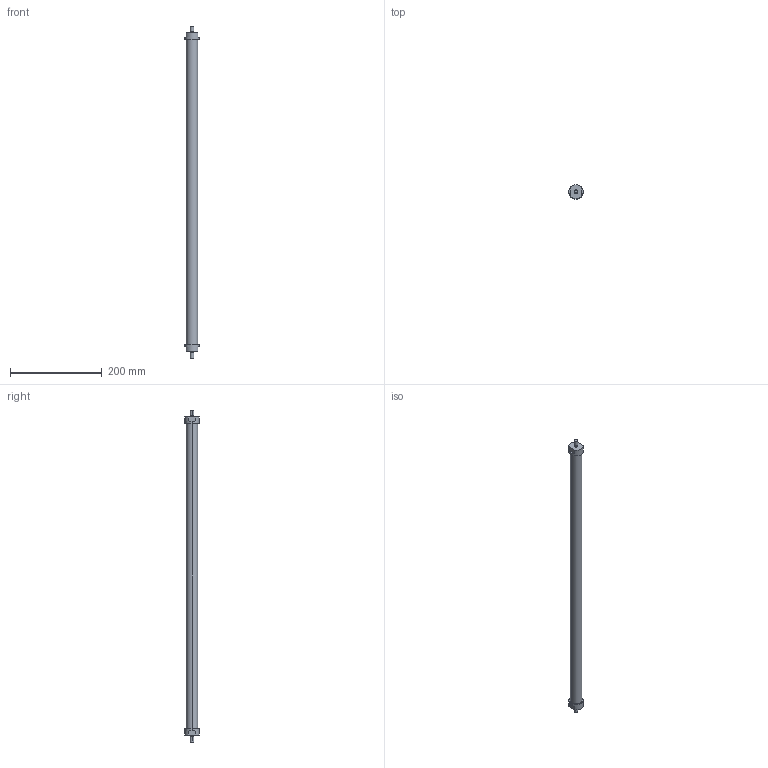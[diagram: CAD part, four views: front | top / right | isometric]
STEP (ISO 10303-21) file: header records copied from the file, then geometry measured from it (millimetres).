
FILE_DESCRIPTION(('STEP AP214'),'1');
FILE_NAME('ETT-R050N704.stp','2015-02-02T15:43:50',(' '),(' '),'Spatial InterOp 3D',' ',' ');
FILE_SCHEMA(('automotive_design'));
Length unit declared in the file: metre
Products named in the file (3): 1; 2; 3
Bounding box: 31 x 31 x 724 mm (x, y, z)
Volume: 348946.3 mm3; surface area: 58377.8 mm2
Topology: 1 solids, 7 shells, 30 faces, 81 edges, 63 vertices
Faces by surface type: plane 16, cylinder 14
Entity records: 1295 total; most frequent: DIRECTION 194, CARTESIAN_POINT 177, ORIENTED_EDGE 138, EDGE_CURVE 81, AXIS2_PLACEMENT_3D 80, VERTEX_POINT 63, CIRCLE 47, EDGE_LOOP 36
